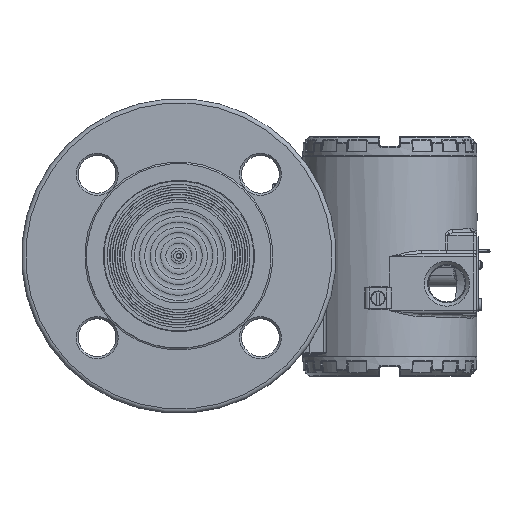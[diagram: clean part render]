
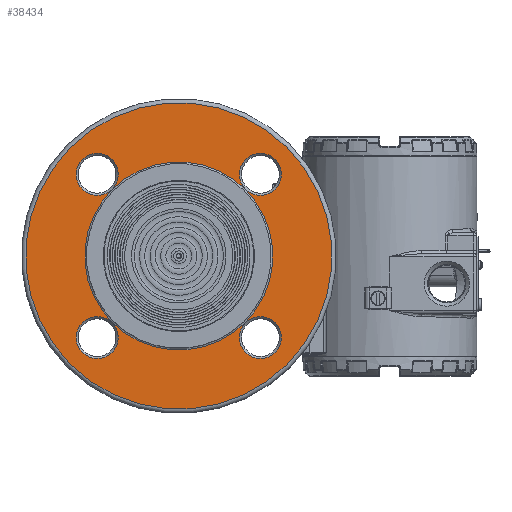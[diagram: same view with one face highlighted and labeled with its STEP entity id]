
A CAD part, top view. The second image highlights one B-rep face of the part: STEP entity #38434.
In plain terms, the highlighted planar face has unit normal (0, 0, 1) as drawn and (-1, 0, 0) by its records, which use the part's own axes.
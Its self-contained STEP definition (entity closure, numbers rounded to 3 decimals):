
#749=FACE_BOUND('',#6541,.T.);
#750=FACE_BOUND('',#6542,.T.);
#751=FACE_BOUND('',#6543,.T.);
#752=FACE_BOUND('',#6544,.T.);
#753=FACE_BOUND('',#6545,.T.);
#2713=PLANE('',#42715);
#3922=FACE_OUTER_BOUND('',#6540,.T.);
#6540=EDGE_LOOP('',(#29430,#29431));
#6541=EDGE_LOOP('',(#29432));
#6542=EDGE_LOOP('',(#29433));
#6543=EDGE_LOOP('',(#29434,#29435));
#6544=EDGE_LOOP('',(#29436));
#6545=EDGE_LOOP('',(#29437));
#12318=CIRCLE('',#42714,10.);
#12319=CIRCLE('',#42716,73.);
#12320=CIRCLE('',#42717,73.);
#12321=CIRCLE('',#42718,10.);
#12322=CIRCLE('',#42719,10.);
#12323=CIRCLE('',#42720,44.8);
#12324=CIRCLE('',#42721,44.8);
#12325=CIRCLE('',#42722,10.);
#16777=VERTEX_POINT('',#68555);
#16778=VERTEX_POINT('',#68559);
#16779=VERTEX_POINT('',#68560);
#16780=VERTEX_POINT('',#68563);
#16781=VERTEX_POINT('',#68565);
#16782=VERTEX_POINT('',#68567);
#16783=VERTEX_POINT('',#68568);
#16784=VERTEX_POINT('',#68571);
#21228=EDGE_CURVE('',#16777,#16777,#12318,.T.);
#21230=EDGE_CURVE('',#16778,#16779,#12319,.T.);
#21231=EDGE_CURVE('',#16779,#16778,#12320,.T.);
#21232=EDGE_CURVE('',#16780,#16780,#12321,.T.);
#21233=EDGE_CURVE('',#16781,#16781,#12322,.T.);
#21234=EDGE_CURVE('',#16782,#16783,#12323,.T.);
#21235=EDGE_CURVE('',#16783,#16782,#12324,.T.);
#21236=EDGE_CURVE('',#16784,#16784,#12325,.T.);
#29430=ORIENTED_EDGE('',*,*,#21230,.F.);
#29431=ORIENTED_EDGE('',*,*,#21231,.F.);
#29432=ORIENTED_EDGE('',*,*,#21232,.F.);
#29433=ORIENTED_EDGE('',*,*,#21233,.F.);
#29434=ORIENTED_EDGE('',*,*,#21234,.T.);
#29435=ORIENTED_EDGE('',*,*,#21235,.T.);
#29436=ORIENTED_EDGE('',*,*,#21236,.F.);
#29437=ORIENTED_EDGE('',*,*,#21228,.F.);
#38434=ADVANCED_FACE('',(#3922,#749,#750,#751,#752,#753),#2713,.T.);
#42714=AXIS2_PLACEMENT_3D('',#68556,#50599,#50600);
#42715=AXIS2_PLACEMENT_3D('',#68558,#50602,#50603);
#42716=AXIS2_PLACEMENT_3D('',#68561,#50604,#50605);
#42717=AXIS2_PLACEMENT_3D('',#68562,#50606,#50607);
#42718=AXIS2_PLACEMENT_3D('',#68564,#50608,#50609);
#42719=AXIS2_PLACEMENT_3D('',#68566,#50610,#50611);
#42720=AXIS2_PLACEMENT_3D('',#68569,#50612,#50613);
#42721=AXIS2_PLACEMENT_3D('',#68570,#50614,#50615);
#42722=AXIS2_PLACEMENT_3D('',#68572,#50616,#50617);
#50599=DIRECTION('center_axis',(-1.,0.,0.));
#50600=DIRECTION('ref_axis',(0.,-1.,0.));
#50602=DIRECTION('center_axis',(-1.,0.,0.));
#50603=DIRECTION('ref_axis',(0.,0.,1.));
#50604=DIRECTION('center_axis',(1.,0.,0.));
#50605=DIRECTION('ref_axis',(0.,1.,0.));
#50606=DIRECTION('center_axis',(1.,0.,0.));
#50607=DIRECTION('ref_axis',(0.,1.,0.));
#50608=DIRECTION('center_axis',(-1.,0.,0.));
#50609=DIRECTION('ref_axis',(0.,0.,1.));
#50610=DIRECTION('center_axis',(-1.,0.,0.));
#50611=DIRECTION('ref_axis',(0.,0.,-1.));
#50612=DIRECTION('center_axis',(1.,0.,0.));
#50613=DIRECTION('ref_axis',(0.,1.,0.));
#50614=DIRECTION('center_axis',(1.,0.,0.));
#50615=DIRECTION('ref_axis',(0.,1.,0.));
#50616=DIRECTION('center_axis',(-1.,0.,0.));
#50617=DIRECTION('ref_axis',(0.,1.,0.));
#68555=CARTESIAN_POINT('',(3.,65.,0.));
#68556=CARTESIAN_POINT('Origin',(3.,55.,0.));
#68558=CARTESIAN_POINT('Origin',(3.,58.9,0.));
#68559=CARTESIAN_POINT('',(3.,73.,0.));
#68560=CARTESIAN_POINT('',(3.,0.,73.));
#68561=CARTESIAN_POINT('Origin',(3.,0.,0.));
#68562=CARTESIAN_POINT('Origin',(3.,0.,0.));
#68563=CARTESIAN_POINT('',(3.,0.,-65.));
#68564=CARTESIAN_POINT('Origin',(3.,0.,-55.));
#68565=CARTESIAN_POINT('',(3.,0.,65.));
#68566=CARTESIAN_POINT('Origin',(3.,0.,55.));
#68567=CARTESIAN_POINT('',(3.,44.8,0.));
#68568=CARTESIAN_POINT('',(3.,0.,44.8));
#68569=CARTESIAN_POINT('Origin',(3.,0.,0.));
#68570=CARTESIAN_POINT('Origin',(3.,0.,0.));
#68571=CARTESIAN_POINT('',(3.,-65.,0.));
#68572=CARTESIAN_POINT('Origin',(3.,-55.,0.));
